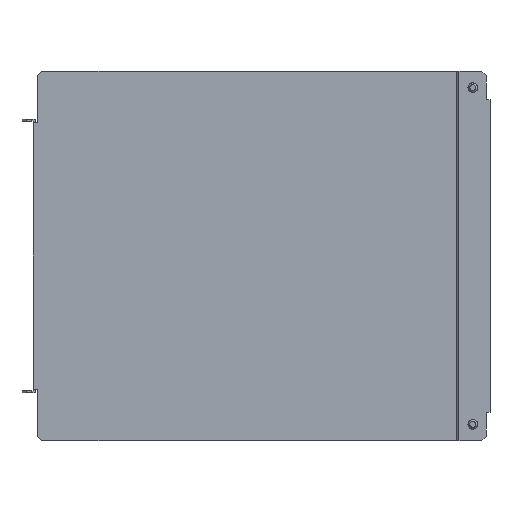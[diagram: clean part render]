
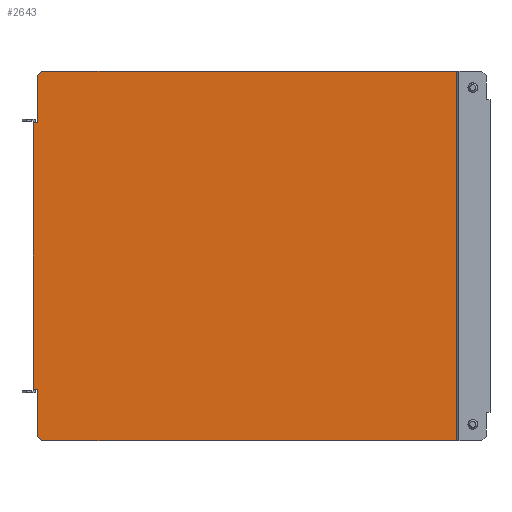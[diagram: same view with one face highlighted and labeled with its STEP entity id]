
A CAD part, front view. The second image highlights one B-rep face of the part: STEP entity #2643.
In plain terms, the highlighted planar face has unit normal (0, -1, 0).
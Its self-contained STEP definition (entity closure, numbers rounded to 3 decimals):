
#19 = CARTESIAN_POINT ( 'NONE',  ( -297.5, 1.5, 123.5 ) ) ;
#190 = CARTESIAN_POINT ( 'NONE',  ( 0., 1.5, -89. ) ) ;
#213 = VECTOR ( 'NONE', #2805, 1000. ) ;
#226 = VERTEX_POINT ( 'NONE', #341 ) ;
#293 = VERTEX_POINT ( 'NONE', #2427 ) ;
#330 = DIRECTION ( 'NONE',  ( 0., 0., 1. ) ) ;
#341 = CARTESIAN_POINT ( 'NONE',  ( -20.925, 1.5, -123.5 ) ) ;
#348 = LINE ( 'NONE', #2353, #1267 ) ;
#433 = LINE ( 'NONE', #3435, #1202 ) ;
#451 = CARTESIAN_POINT ( 'NONE',  ( -300.5, 1.5, 89. ) ) ;
#495 = VERTEX_POINT ( 'NONE', #655 ) ;
#507 = ORIENTED_EDGE ( 'NONE', *, *, #1748, .F. ) ;
#655 = CARTESIAN_POINT ( 'NONE',  ( -20.925, 1.5, 123.5 ) ) ;
#658 = VECTOR ( 'NONE', #1286, 1000. ) ;
#685 = DIRECTION ( 'NONE',  ( 0., 0., -1. ) ) ;
#691 = DIRECTION ( 'NONE',  ( 1., 0., 0. ) ) ;
#706 = CARTESIAN_POINT ( 'NONE',  ( -300.5, 1.5, -120.5 ) ) ;
#794 = VECTOR ( 'NONE', #3222, 1000. ) ;
#820 = VECTOR ( 'NONE', #4210, 1000. ) ;
#834 = VECTOR ( 'NONE', #1078, 1000. ) ;
#872 = EDGE_CURVE ( 'NONE', #1810, #3516, #3695, .T. ) ;
#918 = LINE ( 'NONE', #2855, #3411 ) ;
#980 = ORIENTED_EDGE ( 'NONE', *, *, #4123, .T. ) ;
#1030 = EDGE_CURVE ( 'NONE', #2701, #3189, #3176, .T. ) ;
#1053 = CARTESIAN_POINT ( 'NONE',  ( -300.5, 1.5, -89. ) ) ;
#1078 = DIRECTION ( 'NONE',  ( 1., 0., 0. ) ) ;
#1085 = ORIENTED_EDGE ( 'NONE', *, *, #2664, .T. ) ;
#1104 = CARTESIAN_POINT ( 'NONE',  ( -300.8, 1.5, 89. ) ) ;
#1105 = ORIENTED_EDGE ( 'NONE', *, *, #3050, .T. ) ;
#1146 = CARTESIAN_POINT ( 'NONE',  ( -303.3, 1.5, 0. ) ) ;
#1197 = LINE ( 'NONE', #190, #2797 ) ;
#1202 = VECTOR ( 'NONE', #1803, 1000. ) ;
#1221 = CARTESIAN_POINT ( 'NONE',  ( -300.8, 1.5, 89. ) ) ;
#1224 = VERTEX_POINT ( 'NONE', #3670 ) ;
#1237 = DIRECTION ( 'NONE',  ( 1., 0., 0. ) ) ;
#1267 = VECTOR ( 'NONE', #691, 1000. ) ;
#1286 = DIRECTION ( 'NONE',  ( 1., 0., 0. ) ) ;
#1287 = LINE ( 'NONE', #3899, #2018 ) ;
#1307 = DIRECTION ( 'NONE',  ( 0., -1., 0. ) ) ;
#1391 = VERTEX_POINT ( 'NONE', #1825 ) ;
#1449 = DIRECTION ( 'NONE',  ( -1., 0., 0. ) ) ;
#1462 = CARTESIAN_POINT ( 'NONE',  ( -20.925, 1.5, -123.5 ) ) ;
#1464 = EDGE_CURVE ( 'NONE', #1391, #2249, #2271, .T. ) ;
#1497 = ORIENTED_EDGE ( 'NONE', *, *, #872, .F. ) ;
#1563 = VERTEX_POINT ( 'NONE', #3278 ) ;
#1590 = CARTESIAN_POINT ( 'NONE',  ( -210.5, 1.5, 210.5 ) ) ;
#1748 = EDGE_CURVE ( 'NONE', #495, #293, #918, .T. ) ;
#1786 = EDGE_CURVE ( 'NONE', #1391, #1810, #1197, .T. ) ;
#1803 = DIRECTION ( 'NONE',  ( 0., 0., -1. ) ) ;
#1810 = VERTEX_POINT ( 'NONE', #4125 ) ;
#1814 = VERTEX_POINT ( 'NONE', #1221 ) ;
#1825 = CARTESIAN_POINT ( 'NONE',  ( -300.8, 1.5, -89. ) ) ;
#1946 = FACE_OUTER_BOUND ( 'NONE', #3915, .T. ) ;
#1999 = EDGE_CURVE ( 'NONE', #1814, #3516, #2067, .T. ) ;
#2018 = VECTOR ( 'NONE', #685, 1000. ) ;
#2023 = VECTOR ( 'NONE', #2439, 1000. ) ;
#2067 = LINE ( 'NONE', #1104, #3621 ) ;
#2074 = ORIENTED_EDGE ( 'NONE', *, *, #1786, .F. ) ;
#2146 = LINE ( 'NONE', #1462, #2690 ) ;
#2180 = EDGE_CURVE ( 'NONE', #495, #4059, #2565, .T. ) ;
#2187 = ORIENTED_EDGE ( 'NONE', *, *, #1030, .T. ) ;
#2249 = VERTEX_POINT ( 'NONE', #1053 ) ;
#2271 = LINE ( 'NONE', #3584, #658 ) ;
#2274 = EDGE_CURVE ( 'NONE', #1814, #3805, #348, .T. ) ;
#2311 = PLANE ( 'NONE',  #3845 ) ;
#2315 = EDGE_CURVE ( 'NONE', #1563, #293, #2317, .T. ) ;
#2317 = LINE ( 'NONE', #3305, #3506 ) ;
#2353 = CARTESIAN_POINT ( 'NONE',  ( -300.8, 1.5, 89. ) ) ;
#2371 = ORIENTED_EDGE ( 'NONE', *, *, #1999, .T. ) ;
#2386 = EDGE_CURVE ( 'NONE', #2249, #2701, #433, .T. ) ;
#2412 = EDGE_CURVE ( 'NONE', #226, #1563, #2146, .T. ) ;
#2427 = CARTESIAN_POINT ( 'NONE',  ( -20.511, 1.5, 123.5 ) ) ;
#2439 = DIRECTION ( 'NONE',  ( 0., 0., 1. ) ) ;
#2490 = DIRECTION ( 'NONE',  ( -1., 0., 0. ) ) ;
#2525 = CARTESIAN_POINT ( 'NONE',  ( -297.5, 1.5, -123.5 ) ) ;
#2565 = LINE ( 'NONE', #3864, #213 ) ;
#2643 = ADVANCED_FACE ( 'NONE', ( #1946 ), #2311, .T. ) ;
#2664 = EDGE_CURVE ( 'NONE', #1224, #3805, #1287, .T. ) ;
#2690 = VECTOR ( 'NONE', #3018, 1000. ) ;
#2701 = VERTEX_POINT ( 'NONE', #706 ) ;
#2751 = ORIENTED_EDGE ( 'NONE', *, *, #2315, .T. ) ;
#2780 = CARTESIAN_POINT ( 'NONE',  ( -300.5, 1.5, -123.5 ) ) ;
#2797 = VECTOR ( 'NONE', #2490, 1000. ) ;
#2805 = DIRECTION ( 'NONE',  ( -1., 0., 0. ) ) ;
#2855 = CARTESIAN_POINT ( 'NONE',  ( 0., 1.5, 123.5 ) ) ;
#2896 = ORIENTED_EDGE ( 'NONE', *, *, #2180, .T. ) ;
#3018 = DIRECTION ( 'NONE',  ( 1., 0., 0. ) ) ;
#3050 = EDGE_CURVE ( 'NONE', #3189, #226, #3719, .T. ) ;
#3057 = ORIENTED_EDGE ( 'NONE', *, *, #1464, .T. ) ;
#3176 = LINE ( 'NONE', #3843, #794 ) ;
#3189 = VERTEX_POINT ( 'NONE', #2525 ) ;
#3222 = DIRECTION ( 'NONE',  ( 0.707, 0., -0.707 ) ) ;
#3239 = DIRECTION ( 'NONE',  ( -1., 0., 0. ) ) ;
#3278 = CARTESIAN_POINT ( 'NONE',  ( -20.511, 1.5, -123.5 ) ) ;
#3305 = CARTESIAN_POINT ( 'NONE',  ( -20.511, 1.5, 0. ) ) ;
#3325 = CARTESIAN_POINT ( 'NONE',  ( -303.3, 1.5, 89. ) ) ;
#3411 = VECTOR ( 'NONE', #1237, 1000. ) ;
#3435 = CARTESIAN_POINT ( 'NONE',  ( -300.5, 1.5, 123.5 ) ) ;
#3449 = ORIENTED_EDGE ( 'NONE', *, *, #2274, .F. ) ;
#3506 = VECTOR ( 'NONE', #330, 1000. ) ;
#3516 = VERTEX_POINT ( 'NONE', #3325 ) ;
#3584 = CARTESIAN_POINT ( 'NONE',  ( -300.8, 1.5, -89. ) ) ;
#3621 = VECTOR ( 'NONE', #1449, 1000. ) ;
#3670 = CARTESIAN_POINT ( 'NONE',  ( -300.5, 1.5, 120.5 ) ) ;
#3695 = LINE ( 'NONE', #1146, #2023 ) ;
#3719 = LINE ( 'NONE', #2780, #834 ) ;
#3805 = VERTEX_POINT ( 'NONE', #451 ) ;
#3843 = CARTESIAN_POINT ( 'NONE',  ( -210.5, 1.5, -210.5 ) ) ;
#3845 = AXIS2_PLACEMENT_3D ( 'NONE', #4194, #1307, #3239 ) ;
#3856 = ORIENTED_EDGE ( 'NONE', *, *, #2412, .T. ) ;
#3864 = CARTESIAN_POINT ( 'NONE',  ( 0., 1.5, 123.5 ) ) ;
#3876 = LINE ( 'NONE', #1590, #820 ) ;
#3899 = CARTESIAN_POINT ( 'NONE',  ( -300.5, 1.5, 123.5 ) ) ;
#3915 = EDGE_LOOP ( 'NONE', ( #2896, #980, #1085, #3449, #2371, #1497, #2074, #3057, #4173, #2187, #1105, #3856, #2751, #507 ) ) ;
#4059 = VERTEX_POINT ( 'NONE', #19 ) ;
#4123 = EDGE_CURVE ( 'NONE', #4059, #1224, #3876, .T. ) ;
#4125 = CARTESIAN_POINT ( 'NONE',  ( -303.3, 1.5, -89. ) ) ;
#4173 = ORIENTED_EDGE ( 'NONE', *, *, #2386, .T. ) ;
#4194 = CARTESIAN_POINT ( 'NONE',  ( 0., 1.5, 0. ) ) ;
#4210 = DIRECTION ( 'NONE',  ( -0.707, 0., -0.707 ) ) ;
